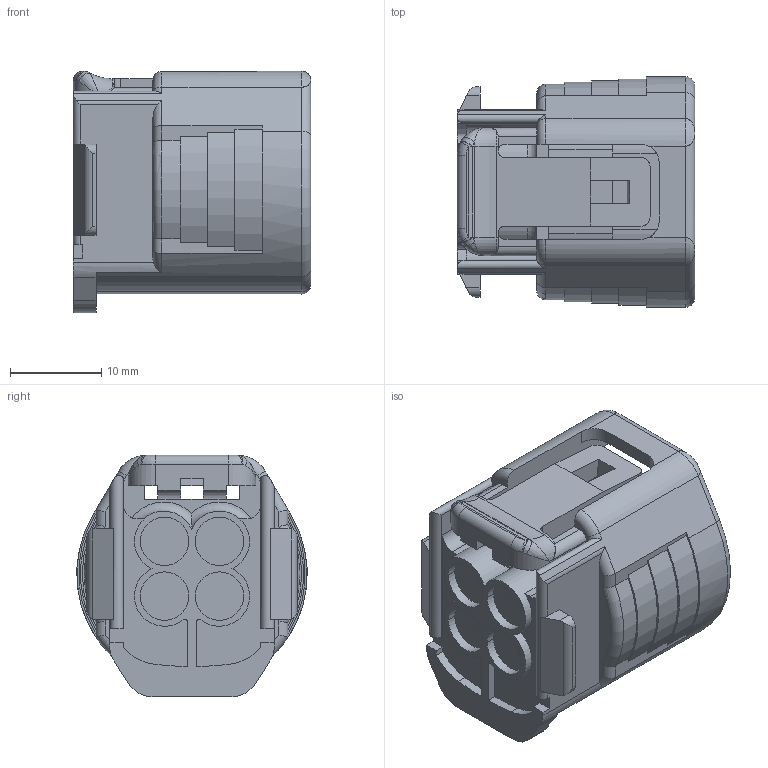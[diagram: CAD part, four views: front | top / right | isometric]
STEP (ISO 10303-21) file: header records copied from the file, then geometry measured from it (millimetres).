
FILE_DESCRIPTION(('CATIA V5 STEP Exchange'),'2;1');
FILE_NAME('N:\C-DAM_MyDesk\ENV\900093\6189-0694.stp','2013-08-20T06:05:40+00:00',('none'),('none'),'CATIA Version 5 Release 20 SP 4 (IN-10)','CATIA V5 STEP AP203','none');
FILE_SCHEMA(('CONFIG_CONTROL_DESIGN'));
Length unit declared in the file: millimetre
Products named in the file (1): 6189-0694
Bounding box: 26 x 25.2 x 26.4 mm (x, y, z)
Volume: 8240 mm3; surface area: 6096.1 mm2
Topology: 1 solids, 1 shells, 263 faces, 758 edges, 492 vertices
Faces by surface type: plane 130, cylinder 105, torus 17, bspline 9, sphere 2
Entity records: 9046 total; most frequent: CARTESIAN_POINT 2511, ORIENTED_EDGE 1504, DIRECTION 1083, EDGE_CURVE 752, VERTEX_POINT 492, VECTOR 456, LINE 456, AXIS2_PLACEMENT_3D 421
